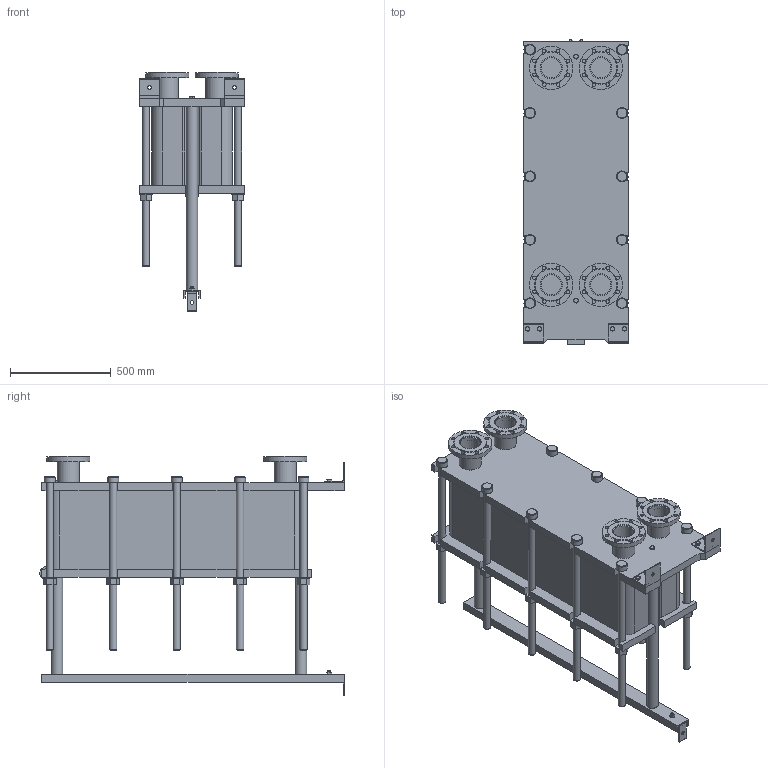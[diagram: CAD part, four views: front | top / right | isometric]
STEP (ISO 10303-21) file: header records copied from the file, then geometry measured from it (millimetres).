
FILE_DESCRIPTION(/* description */ (''),/* implementation_level */ '2;1');
FILE_NAME(/* name */ 'C:\Users\zhuro\Desktop\ENCO\TO\ЭН-04\ЭН-0,5-04-113-1.stp',/* time_stamp */ '2022-06-06T10:55:22+03:00',/* author */ ('zhuro'),/* organization */ (''),/* preprocessor_version */ 'ST-DEVELOPER v18.1',/* originating_system */ 'Autodesk Inventor 2022',/* authorisation */ '');
FILE_SCHEMA (('AUTOMOTIVE_DESIGN { 1 0 10303 214 3 1 1 }'));
Length unit declared in the file: millimetre
Products named in the file (1): ЭН-0,5-04-113-1
Bounding box: 520 x 1510 x 1186.5 mm (x, y, z)
Volume: 266735562.7 mm3; surface area: 8641133.2 mm2
Topology: 45 solids, 45 shells, 668 faces, 1611 edges, 1048 vertices
Faces by surface type: plane 457, cylinder 166, cone 39, torus 6
Full cylindrical faces by diameter (mm): 8 x4, 10 x2, 16 x8, 18 x35, 36 x25, 40 x2, 42 x1, 45 x4, 54 x10, 57 x2, 60 x10, 68 x2, 100 x4, 110 x8, 215 x4
Entity records: 23607 total; most frequent: CARTESIAN_POINT 7348, DIRECTION 3371, ORIENTED_EDGE 3142, EDGE_CURVE 1571, AXIS2_PLACEMENT_3D 1199, VERTEX_POINT 1044, LINE 973, VECTOR 973
